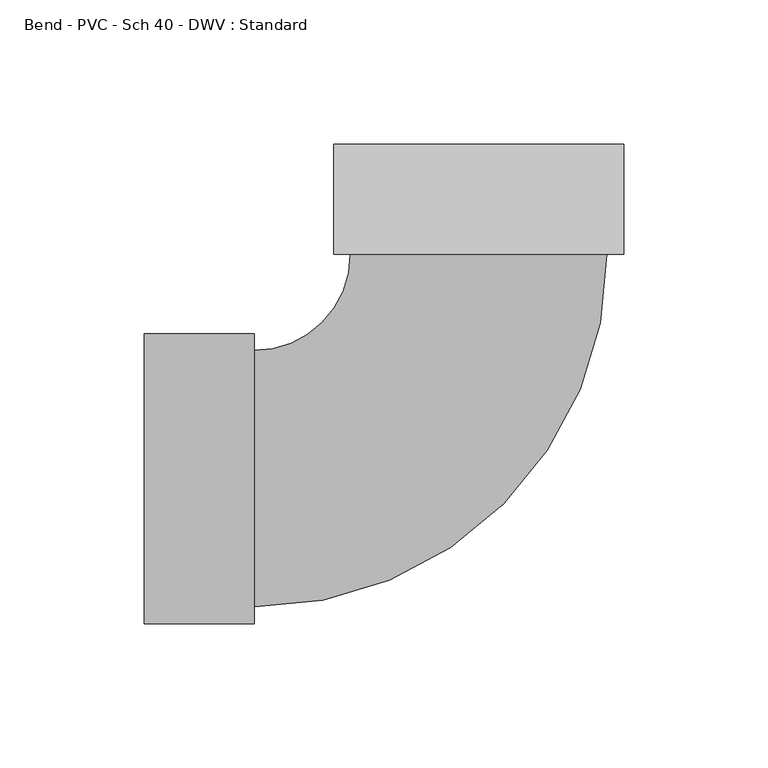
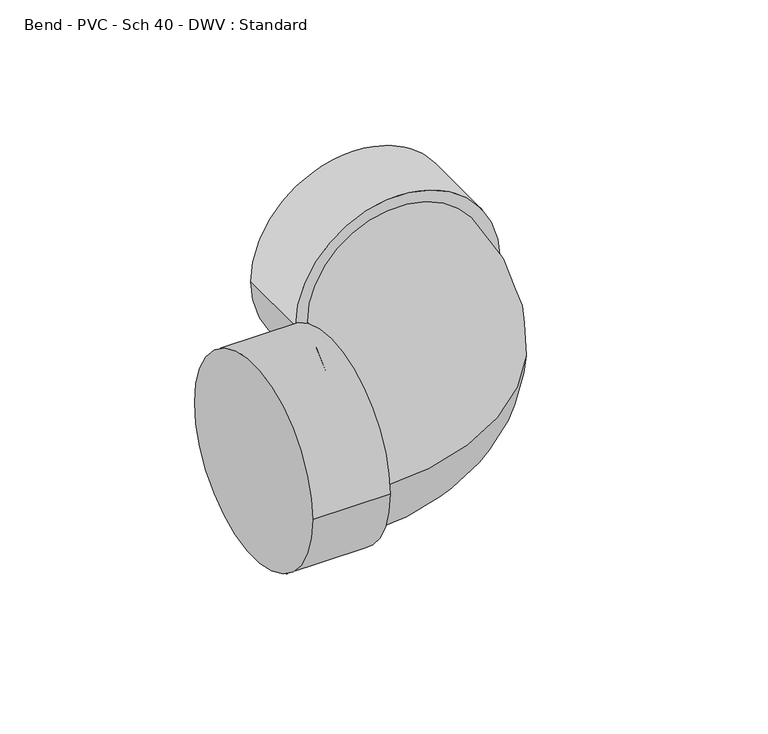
"""IFC4 building model written with IfcOpenShell, lengths in millimetres: pipe fitting geometry, Bend - PVC - Sch 40 - DWV : Standard."""

from ifc_helpers import new_model, si_unit, point, frame, origin, place, context, project, spatial, circle_curve, ellipse_curve, trimmed, source, transform, mapped, element, save
from ifc_brep_helpers import plane_surface, cylinder_surface, revolved_surface, advanced_brep


def bend_pvc_sch_40_dwv_standard_e753eb36(model_context):
    return source(origin(), model_context, "Body", "AdvancedBrep", [
        advanced_brep(
        [(-115.9002, -50.2666, 0.0), (-115.9002, 50.2666, 0.0), (-77.8002, -50.2666, 0.0), (-77.8002, 50.2666, 0.0), (-77.8002, -44.45, 0.0), (-77.8002, 44.45, 0.0), (-44.4331186, 77.8098425, 0.0), (44.4668793, 77.7905538, 0.0), (50.2834792, 77.7892918, 0.0), (-50.2497185, 77.8111045, 0.0), (50.2917457, 115.8892909, 0.0), (-50.2414519, 115.9111036, 0.0)],
        [
            (0, 1, circle_curve(frame((-115.9002, 0.0, 0.0), z_axis=(-1.0, 0.0, 0.0), x_axis=(0.0, 1.0, 0.0)), 50.2666)),
            (1, 0, circle_curve(frame((-115.9002, 0.0, 0.0), z_axis=(-1.0, 0.0, 0.0), x_axis=(0.0, 1.0, 0.0)), 50.2666)),
            (2, 3, circle_curve(frame((-77.8002, 0.0, 0.0), z_axis=(1.0, 0.0, 0.0), x_axis=(0.0, 1.0, 0.0)), 50.2666)),
            (3, 2, circle_curve(frame((-77.8002, 0.0, 0.0), z_axis=(1.0, 0.0, 0.0), x_axis=(0.0, 1.0, 0.0)), 50.2666)),
            (4, 5, circle_curve(frame((-77.8002, 0.0, 0.0), z_axis=(-1.0, 0.0, 0.0), x_axis=(0.0, 1.0, 0.0)), 44.45)),
            (5, 4, circle_curve(frame((-77.8002, 0.0, 0.0), z_axis=(-1.0, 0.0, 0.0), x_axis=(0.0, 1.0, 0.0)), 44.45)),
            (0, 2),
            (3, 1),
            (6, 5, circle_curve(frame((-77.8002, 77.8170822, 0.0), z_axis=(0.0, 0.0, -1.0), x_axis=(0.0, -1.0, 0.0)), 33.3670822)),
            (4, 7, circle_curve(frame((-77.8002, 77.8170822, 0.0), z_axis=(0.0, 0.0, 1.0), x_axis=(0.0, -1.0, 0.0)), 122.2670822)),
            (7, 6, circle_curve(frame((0.0168803, 77.8001982, 0.0), z_axis=(-0.00021697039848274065, -0.9999999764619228, 0.0), x_axis=(-0.9999999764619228, 0.00021697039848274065, 0.0)), 44.45)),
            (6, 7, circle_curve(frame((0.0168803, 77.8001982, 0.0), z_axis=(-0.00021697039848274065, -0.9999999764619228, 0.0), x_axis=(-0.9999999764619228, 0.00021697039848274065, 0.0)), 44.45)),
            (8, 9, circle_curve(frame((0.0168803, 77.8001982, 0.0), z_axis=(-0.00021697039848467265, -0.999999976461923, 0.0), x_axis=(-0.999999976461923, 0.00021697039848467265, 0.0)), 50.2666)),
            (9, 8, circle_curve(frame((0.0168803, 77.8001982, 0.0), z_axis=(-0.00021697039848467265, -0.999999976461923, 0.0), x_axis=(-0.999999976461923, 0.00021697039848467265, 0.0)), 50.2666)),
            (10, 11, circle_curve(frame((0.0251469, 115.9001973, 0.0), z_axis=(0.00021697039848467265, 0.999999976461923, 0.0), x_axis=(-0.999999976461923, 0.00021697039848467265, 0.0)), 50.2666)),
            (11, 10, circle_curve(frame((0.0251469, 115.9001973, 0.0), z_axis=(0.00021697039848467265, 0.999999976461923, 0.0), x_axis=(-0.999999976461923, 0.00021697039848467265, 0.0)), 50.2666)),
            (8, 10),
            (11, 9),
        ],
        [
            plane_surface(frame((-115.9002, 0.0, 0.0), z_axis=(-1.0, 0.0, 0.0), x_axis=(0.0, 0.0, 1.0))),
            plane_surface(frame((-77.8002, 0.0, 0.0), z_axis=(1.0, 0.0, 0.0), x_axis=(0.0, 0.0, 1.0))),
            cylinder_surface(frame((-115.9002, 0.0, 0.0), z_axis=(-1.0, 0.0, 0.0), x_axis=(0.0, 1.0, 0.0)), 50.2666),
            revolved_surface(trimmed(ellipse_curve(frame((-77.8002, 0.0, 0.0), z_axis=(-1.0, 0.0, 0.0), x_axis=(0.0, 1.0, 0.0)), 44.45, 44.45), [point((-77.8002, -44.45, 0.0))], [point((-77.8002, 44.45, 0.0))], True, "CARTESIAN"), (-77.8002, 77.8170822, 0.0), (0.0, 0.0, 1.0)),
            revolved_surface(trimmed(ellipse_curve(frame((-77.8002, 0.0, 0.0), z_axis=(-1.0, 0.0, 0.0), x_axis=(0.0, 1.0, 0.0)), 44.45, 44.45), [point((-77.8002, 44.45, 0.0))], [point((-77.8002, -44.45, 0.0))], True, "CARTESIAN"), (-77.8002, 77.8170822, 0.0), (0.0, 0.0, 1.0)),
            plane_surface(frame((0.0168803, 77.8001982, 0.0), z_axis=(-0.00021697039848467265, -0.999999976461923, 0.0), x_axis=(0.0, 0.0, 1.0))),
            plane_surface(frame((0.0251469, 115.9001973, 0.0), z_axis=(0.00021697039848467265, 0.999999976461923, 0.0), x_axis=(0.0, 0.0, 1.0))),
            cylinder_surface(frame((0.0168803, 77.8001982, 0.0), z_axis=(-0.00021697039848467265, -0.999999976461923, 0.0), x_axis=(-0.999999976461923, 0.00021697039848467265, 0.0)), 50.2666),
        ],
        [
            (0, [[1, 2]]),
            (1, [[3, 4], [5, 6]]),
            (2, [[-1, 7, -4, 8]]),
            (2, [[-2, -8, -3, -7]]),
            (3, [[9, -5, 10, 11]]),
            (4, [[-9, 12, -10, -6]]),
            (5, [[13, 14], [-11, -12]]),
            (6, [[15, 16]]),
            (7, [[-13, 17, -16, 18]]),
            (7, [[-14, -18, -15, -17]]),
        ],
    ),
    ])


if __name__ == "__main__":
    model = new_model("IFC4")
    model_context = context("Model", 3, world=origin())
    ifc_project = project(units=[si_unit("LENGTHUNIT", "METRE", prefix="MILLI")], contexts=[model_context])
    site = spatial("IfcSite", under=ifc_project)
    building = spatial("IfcBuilding", under=site)
    placement = place(None, origin())
    bend_pvc_sch_40_dwv_standard_shape = bend_pvc_sch_40_dwv_standard_e753eb36(model_context)
    element("IfcPipeFitting", 1, ObjectType="Bend - PVC - Sch 40 - DWV : Standard", at=placement, inside=building, context=model_context, shape_type="MappedRepresentation", body=[
        mapped(bend_pvc_sch_40_dwv_standard_shape, transform((0.0, 0.0, 0.0), x_axis=(1.0, 0.0, 0.0), y_axis=(0.0, 1.0, 0.0), z_axis=(0.0, 0.0, 1.0))),
    ])
    save(model, "model.ifc")
